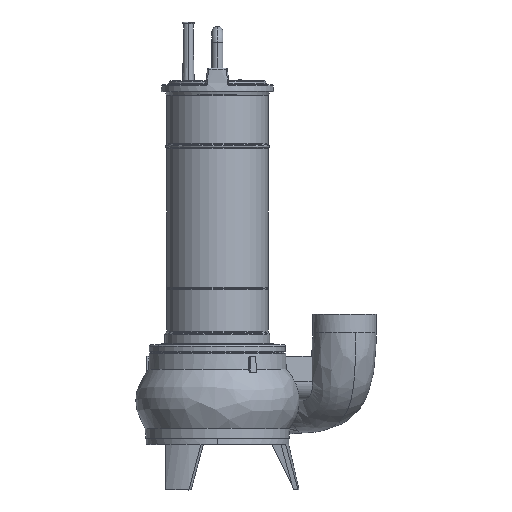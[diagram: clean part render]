
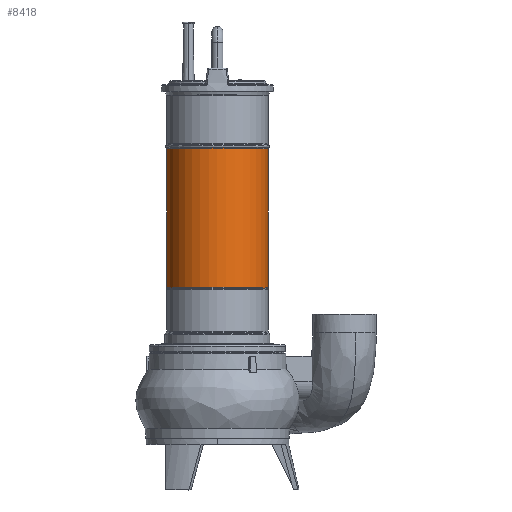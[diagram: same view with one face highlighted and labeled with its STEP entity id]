
A CAD part, top view. The second image highlights one B-rep face of the part: STEP entity #8418.
In plain terms, the highlighted cylindrical face has radius 56 mm (diameter 112 mm), a partial arc.
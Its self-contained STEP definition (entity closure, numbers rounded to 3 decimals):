
#805 = VECTOR ( 'NONE', #8113, 1000. ) ;
#1388 = CARTESIAN_POINT ( 'NONE',  ( -56., 325.704, 0. ) ) ;
#1687 = DIRECTION ( 'NONE',  ( 0., -1., 0. ) ) ;
#2189 = CIRCLE ( 'NONE', #4364, 56. ) ;
#2389 = EDGE_CURVE ( 'NONE', #2639, #8944, #9480, .T. ) ;
#2441 = VERTEX_POINT ( 'NONE', #7613 ) ;
#2639 = VERTEX_POINT ( 'NONE', #2709 ) ;
#2708 = VECTOR ( 'NONE', #10315, 1000. ) ;
#2709 = CARTESIAN_POINT ( 'NONE',  ( -56., 325.704, 0. ) ) ;
#2858 = DIRECTION ( 'NONE',  ( -1., 0., 0. ) ) ;
#3227 = CARTESIAN_POINT ( 'NONE',  ( 56., 325.704, 0. ) ) ;
#3306 = DIRECTION ( 'NONE',  ( 0., 1., 0. ) ) ;
#4046 = AXIS2_PLACEMENT_3D ( 'NONE', #12136, #6258, #2858 ) ;
#4364 = AXIS2_PLACEMENT_3D ( 'NONE', #9126, #3306, #12349 ) ;
#5594 = AXIS2_PLACEMENT_3D ( 'NONE', #12094, #1687, #7347 ) ;
#5704 = LINE ( 'NONE', #3227, #2708 ) ;
#6114 = ORIENTED_EDGE ( 'NONE', *, *, #12496, .F. ) ;
#6258 = DIRECTION ( 'NONE',  ( 0., -1., 0. ) ) ;
#7347 = DIRECTION ( 'NONE',  ( 1., 0., 0. ) ) ;
#7613 = CARTESIAN_POINT ( 'NONE',  ( 56., 325.704, 0. ) ) ;
#8113 = DIRECTION ( 'NONE',  ( 0., -1., 0. ) ) ;
#8418 = ADVANCED_FACE ( 'NONE', ( #10790 ), #9801, .T. ) ;
#8944 = VERTEX_POINT ( 'NONE', #12190 ) ;
#9126 = CARTESIAN_POINT ( 'NONE',  ( 0., 325.704, 0. ) ) ;
#9480 = LINE ( 'NONE', #1388, #805 ) ;
#9696 = ORIENTED_EDGE ( 'NONE', *, *, #13310, .F. ) ;
#9801 = CYLINDRICAL_SURFACE ( 'NONE', #4046, 56. ) ;
#10140 = ORIENTED_EDGE ( 'NONE', *, *, #2389, .T. ) ;
#10315 = DIRECTION ( 'NONE',  ( 0., -1., 0. ) ) ;
#10790 = FACE_OUTER_BOUND ( 'NONE', #12050, .T. ) ;
#11602 = ORIENTED_EDGE ( 'NONE', *, *, #13631, .F. ) ;
#12050 = EDGE_LOOP ( 'NONE', ( #9696, #6114, #10140, #11602 ) ) ;
#12083 = CIRCLE ( 'NONE', #5594, 56. ) ;
#12094 = CARTESIAN_POINT ( 'NONE',  ( 0., 172.5, 0. ) ) ;
#12136 = CARTESIAN_POINT ( 'NONE',  ( 0., 402.63, 0. ) ) ;
#12190 = CARTESIAN_POINT ( 'NONE',  ( -56., 172.5, 0. ) ) ;
#12197 = VERTEX_POINT ( 'NONE', #13750 ) ;
#12349 = DIRECTION ( 'NONE',  ( -1., 0., 0. ) ) ;
#12496 = EDGE_CURVE ( 'NONE', #2639, #2441, #2189, .T. ) ;
#13310 = EDGE_CURVE ( 'NONE', #2441, #12197, #5704, .T. ) ;
#13631 = EDGE_CURVE ( 'NONE', #12197, #8944, #12083, .T. ) ;
#13750 = CARTESIAN_POINT ( 'NONE',  ( 56., 172.5, 0. ) ) ;
